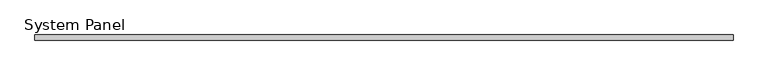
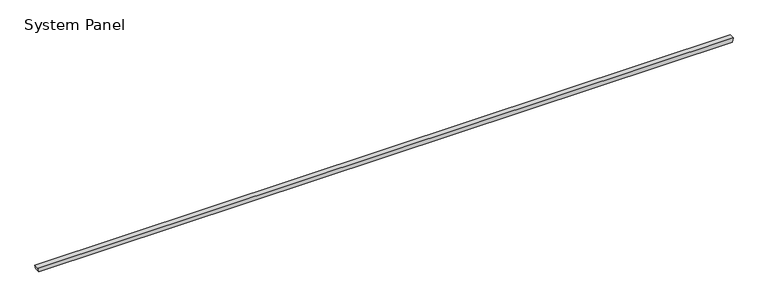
"""IFC4 building model written with IfcOpenShell, lengths in millimetres: plate geometry, System Panel : Equitilt_100mm_Plain_Surfmist."""

from ifc_helpers import new_model, si_unit, frame, origin, place, context, project, spatial, polyline, outline, extrude, source, transform, mapped, element, save


def system_panel_4d645eaa(model_context):
    return source(origin(), model_context, "Body", "SweptSolid", [
        extrude(outline(polyline([(0.0, -6782.6149856), (0.0, 6782.6149856), (79.9704237, 6800.0), (79.9704237, -6800.0), (0.0, -6782.6149856)])), frame((0.0, -100.0, 0.0), z_axis=(0.0, 1.0, 0.0), x_axis=(0.0, 0.0, 1.0)), (0.0, 0.0, 1.0), 100.0),
    ])


if __name__ == "__main__":
    model = new_model("IFC4")
    model_context = context("Model", 3, world=origin())
    ifc_project = project(units=[si_unit("LENGTHUNIT", "METRE", prefix="MILLI")], contexts=[model_context])
    site = spatial("IfcSite", under=ifc_project)
    building = spatial("IfcBuilding", under=site)
    placement = place(None, origin())
    system_panel_shape = system_panel_4d645eaa(model_context)
    element("IfcPlate", 1, ObjectType="System Panel : Equitilt_100mm_Plain_Surfmist", at=placement, inside=building, context=model_context, shape_type="MappedRepresentation", body=[
        mapped(system_panel_shape, transform((0.0, 0.0, 0.0), x_axis=(1.0, 0.0, 0.0), y_axis=(0.0, 1.0, 0.0), z_axis=(0.0, 0.0, 1.0))),
    ])
    save(model, "model.ifc")
